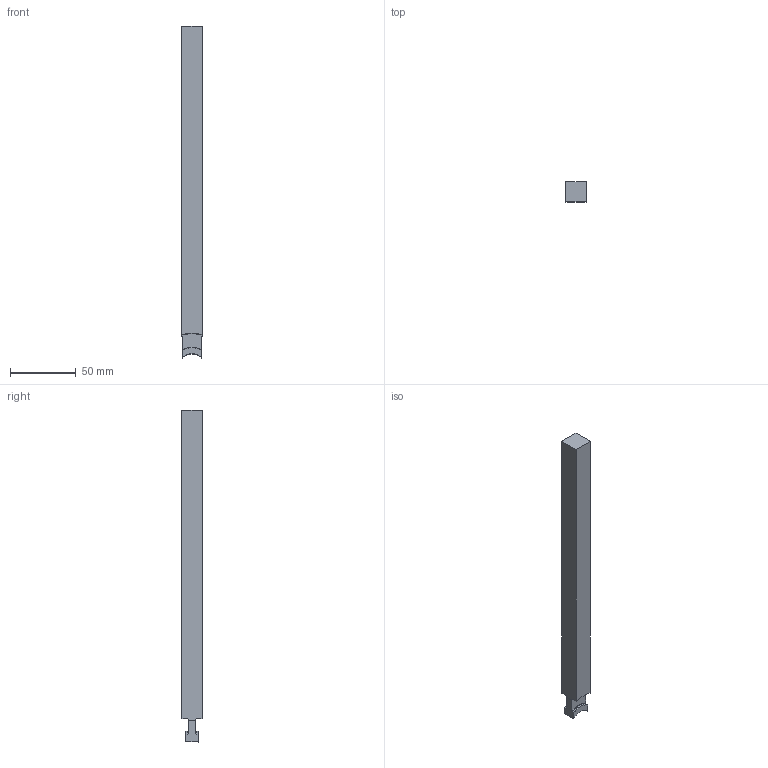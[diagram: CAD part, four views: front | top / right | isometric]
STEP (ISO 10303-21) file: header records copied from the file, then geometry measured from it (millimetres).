
FILE_DESCRIPTION (( 'STEP AP214' ), '1' );
FILE_NAME ('CBMM15X15L250.STEP', '2011-08-03T19:27:40', ( '' ), ( '' ), 'SwSTEP 2.0', 'SolidWorks 2010', '' );
FILE_SCHEMA (( 'AUTOMOTIVE_DESIGN' ));
Length unit declared in the file: millimetre
Products named in the file (1): CBMM15X15L250
Bounding box: 15.25 x 15.25 x 253 mm (x, y, z)
Volume: 56325 mm3; surface area: 15665.3 mm2
Topology: 1 solids, 1 shells, 37 faces, 101 edges, 66 vertices
Faces by surface type: plane 13, torus 12, cylinder 12
Entity records: 1273 total; most frequent: CARTESIAN_POINT 293, ORIENTED_EDGE 202, DIRECTION 201, EDGE_CURVE 101, AXIS2_PLACEMENT_3D 78, VERTEX_POINT 66, LINE 45, VECTOR 45
